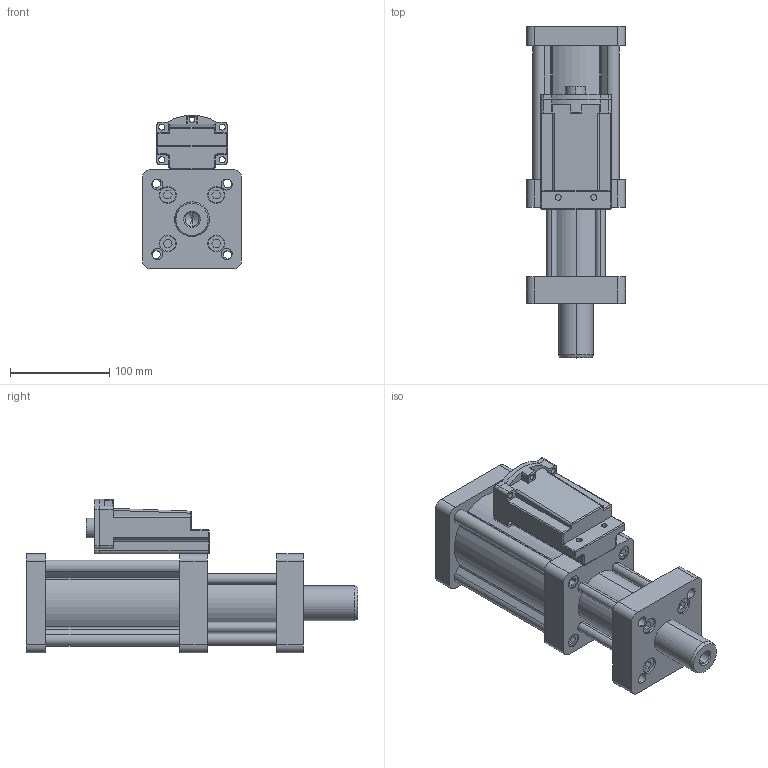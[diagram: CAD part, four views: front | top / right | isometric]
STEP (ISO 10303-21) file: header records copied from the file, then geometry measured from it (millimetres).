
FILE_DESCRIPTION (( 'STEP AP203' ), '1' );
FILE_NAME ('MPTC-50-15-1T.STEP', '2016-03-15T07:59:16', ( 'WIN' ), ( '' ), 'SwSTEP 2.0', 'SolidWorks 2014', '' );
FILE_SCHEMA (( 'CONFIG_CONTROL_DESIGN' ));
Length unit declared in the file: millimetre
Products named in the file (1): MPTC-50-15-1T
Bounding box: 100 x 335 x 154.97 mm (x, y, z)
Surface area: 299953.7 mm2 (no closed solid volume)
Topology: 0 solids, 6 shells, 534 faces, 1316 edges, 816 vertices
Faces by surface type: plane 282, cylinder 213, cone 24, sphere 8, torus 5, bspline 2
Entity records: 16190 total; most frequent: CARTESIAN_POINT 3114, DIRECTION 2867, ORIENTED_EDGE 2577, EDGE_CURVE 1300, AXIS2_PLACEMENT_3D 1061, VERTEX_POINT 816, LINE 745, VECTOR 745
